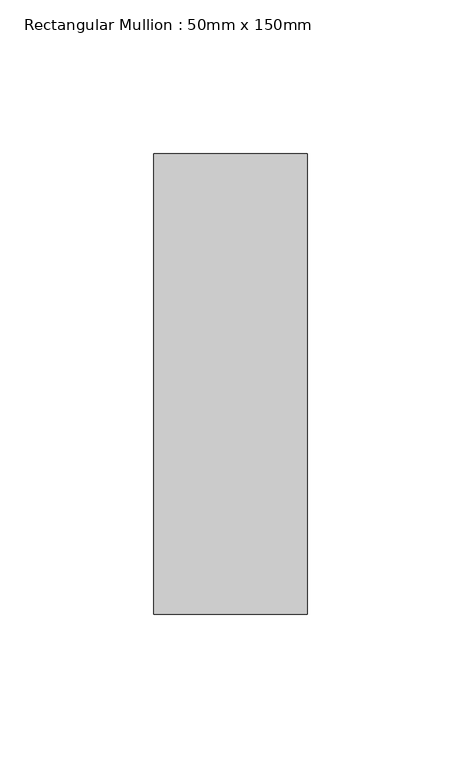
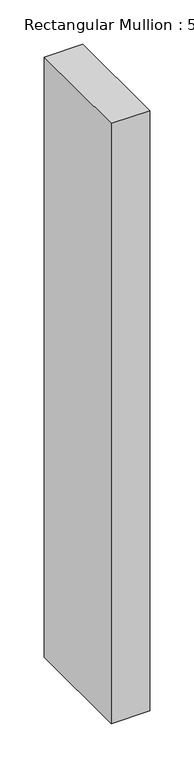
"""IFC4 building model written with IfcOpenShell, lengths in millimetres: member geometry, Rectangular Mullion : 50mm x 150mm."""

import ifcopenshell
import ifcopenshell.guid

model = None  # the IFC model being written
_history = None  # IfcOwnerHistory: only IFC2X3 demands one
_inside = {}  # id of a spatial element -> (the spatial element, [elements in it])
_under = {}  # id of a project, library or spatial element -> (it, [spatial elements below it])
_declared = {}  # id of a project -> (the project, [libraries it declares])
_typed = {}  # id of a type object -> (the type object, [elements of that type])
_made_of = {}  # id of a material, layer set ... -> (it, [elements and type objects made of it])


def new_model(schema):
    """Start an empty IFC model of exactly this schema.

    Asked for "IFC4X3", IfcOpenShell would pick the latest addendum, in which some entities
    have other attributes; the version numbers below select the first issue.
    IFC2X3 requires an IfcOwnerHistory on every rooted entity: one is made here for all.
    """
    global model, _history
    if schema == "IFC4X3":
        model = ifcopenshell.file(schema_version=(4, 3, 0, 0))
    else:
        model = ifcopenshell.file(schema=schema)
    _inside.clear()
    _under.clear()
    _declared.clear()
    _typed.clear()
    _made_of.clear()
    _history = None
    if model.schema == "IFC2X3":
        org = make("IfcOrganization", Name="unknown")
        user = make(
            "IfcPersonAndOrganization",
            ThePerson=make("IfcPerson", FamilyName="unknown"),
            TheOrganization=org,
        )
        app = make(
            "IfcApplication",
            ApplicationDeveloper=org,
            Version="unknown",
            ApplicationFullName="unknown",
            ApplicationIdentifier="unknown",
        )
        _history = make(
            "IfcOwnerHistory",
            OwningUser=user,
            OwningApplication=app,
            ChangeAction="ADDED",
            CreationDate=0,
        )
    return model


def make(cls, **values):
    """One entity of the class cls with the attributes given. An attribute that is None is left unset."""
    return model.create_entity(
        cls, **{name: value for name, value in values.items() if value is not None}
    )


def rooted(cls, **values):
    """An entity with a GlobalId (a new one), such as an element, a storey or a relation."""
    return make(cls, GlobalId=ifcopenshell.guid.new(), OwnerHistory=_history, **values)


def si_unit(unit_type, name, prefix=None):
    """IfcSIUnit, for example si_unit("LENGTHUNIT", "METRE", prefix="MILLI")."""
    return make("IfcSIUnit", UnitType=unit_type, Prefix=prefix, Name=name)


def assignment(units):
    """IfcUnitAssignment: the units of a project."""
    return None if units is None else make("IfcUnitAssignment", Units=units)


def point(xyz):
    """IfcCartesianPoint."""
    return None if xyz is None else make("IfcCartesianPoint", Coordinates=xyz)


def direction(xyz):
    """IfcDirection."""
    return None if xyz is None else make("IfcDirection", DirectionRatios=xyz)


def frame(location, z_axis=None, x_axis=None):
    """IfcAxis2Placement3D, a coordinate frame: its origin and axes. An axis left out is left unset."""
    return make(
        "IfcAxis2Placement3D",
        Location=point(location),
        Axis=direction(z_axis),
        RefDirection=direction(x_axis),
    )


def origin():
    """The frame at (0, 0, 0) with its axes left unset."""
    return frame((0.0, 0.0, 0.0))


def place(relative_to, where):
    """IfcLocalPlacement: puts the frame where relative to a parent placement (None: the world)."""
    return make(
        "IfcLocalPlacement", PlacementRelTo=relative_to, RelativePlacement=where
    )


def context(
    kind, dimensions, precision=None, world=None, true_north=None, identifier=None
):
    """IfcGeometricRepresentationContext, for example the 3D "Model" context."""
    return make(
        "IfcGeometricRepresentationContext",
        ContextIdentifier=identifier,
        ContextType=kind,
        CoordinateSpaceDimension=dimensions,
        Precision=precision,
        WorldCoordinateSystem=world,
        TrueNorth=true_north,
    )


def project(units=None, contexts=None):
    """IfcProject with its units and contexts."""
    return rooted(
        "IfcProject",
        Name="project",
        RepresentationContexts=contexts,
        UnitsInContext=assignment(units),
    )


def spatial(cls, under=None, at=None, **own):
    """A site, building, storey or space (cls), placed at a placement, below another one or the project."""
    s = rooted(cls, ObjectPlacement=at, **own)
    if under is not None:
        _under.setdefault(under.id(), (under, []))[1].append(s)
    return s


def polyline(points):
    """IfcPolyline through the points."""
    return make("IfcPolyline", Points=[point(p) for p in points])


def outline(outer, holes=None, kind="AREA"):
    """IfcArbitraryClosedProfileDef: a profile drawn as a closed curve; with holes, ...WithVoids."""
    if holes is None:
        return make("IfcArbitraryClosedProfileDef", ProfileType=kind, OuterCurve=outer)
    return make(
        "IfcArbitraryProfileDefWithVoids",
        ProfileType=kind,
        OuterCurve=outer,
        InnerCurves=holes,
    )


def extrude(swept, where, along, depth):
    """IfcExtrudedAreaSolid: the profile swept, set in the frame where, extruded along a direction by depth."""
    return make(
        "IfcExtrudedAreaSolid",
        SweptArea=swept,
        Position=where,
        ExtrudedDirection=direction(along),
        Depth=depth,
    )


def shape(context_of_items, identifier, shape_type, items):
    """IfcShapeRepresentation: the items that make up one representation, for example the "Body"."""
    return make(
        "IfcShapeRepresentation",
        ContextOfItems=context_of_items,
        RepresentationIdentifier=identifier,
        RepresentationType=shape_type,
        Items=items,
    )


def source(mapping_origin, context_of_items, identifier, shape_type, items):
    """IfcRepresentationMap: a shape defined once, which mapped items show again and again."""
    return make(
        "IfcRepresentationMap",
        MappingOrigin=mapping_origin,
        MappedRepresentation=shape(context_of_items, identifier, shape_type, items),
    )


def transform(
    local_origin,
    x_axis=None,
    y_axis=None,
    z_axis=None,
    scale=None,
    scale2=None,
    scale3=None,
    uniform=True,
):
    """IfcCartesianTransformationOperator3D, or its non-uniform kind. x_axis, y_axis, z_axis: its Axis1, 2, 3."""
    if uniform:
        return make(
            "IfcCartesianTransformationOperator3D",
            Axis1=direction(x_axis),
            Axis2=direction(y_axis),
            LocalOrigin=point(local_origin),
            Scale=scale,
            Axis3=direction(z_axis),
        )
    return make(
        "IfcCartesianTransformationOperator3DnonUniform",
        Axis1=direction(x_axis),
        Axis2=direction(y_axis),
        LocalOrigin=point(local_origin),
        Scale=scale,
        Axis3=direction(z_axis),
        Scale2=scale2,
        Scale3=scale3,
    )


def mapped(mapping_source, mapping_target):
    """IfcMappedItem: shows the shape of a source again, moved by a transform."""
    return make(
        "IfcMappedItem", MappingSource=mapping_source, MappingTarget=mapping_target
    )


def made_of(thing, what):
    """Note that an element or type object is made of a material, layer set ...; save() writes the relation."""
    if what is not None:
        _made_of.setdefault(what.id(), (what, []))[1].append(thing)
    return thing


def element(
    cls,
    number,
    at=None,
    inside=None,
    cuts=None,
    type_object=None,
    material=None,
    context=None,
    identifier="Body",
    shape_type=None,
    held_by="IfcProductDefinitionShape",
    body=None,
    shapes=None,
    **own,
):
    """One element of the class cls, such as IfcWall. Its Tag is "e" and its number.

    at: its placement. inside: the storey or other place that contains it. cuts: it is an
    opening in that element (IfcRelVoidsElement). A single representation is given by context,
    identifier, shape_type and body (its items); several are given by shapes. held_by: the class
    of the entity that holds the representations. save() writes the other relations.
    """
    e = rooted(cls, Tag="e%d" % number, ObjectPlacement=at, **own)
    if body is not None:
        shapes = [shape(context, identifier, shape_type, body)]
    if shapes is not None:
        e.Representation = make(held_by, Representations=shapes)
    if inside is not None:
        _inside.setdefault(inside.id(), (inside, []))[1].append(e)
    if cuts is not None:
        rooted(
            "IfcRelVoidsElement", RelatingBuildingElement=cuts, RelatedOpeningElement=e
        )
    if type_object is not None:
        _typed.setdefault(type_object.id(), (type_object, []))[1].append(e)
    return made_of(e, material)


def aggregate(whole, parts):
    """IfcRelAggregates: a whole, such as a stair, and the parts it consists of."""
    return rooted("IfcRelAggregates", RelatingObject=whole, RelatedObjects=parts)


def save(model, path):
    """Write the relations noted so far, then the file.

    IfcRelAggregates (storeys below a building ...), IfcRelContainedInSpatialStructure (elements
    in a storey), IfcRelDefinesByType, IfcRelAssociatesMaterial and IfcRelDeclares: one each for
    every whole, place, type object, material and project.
    """
    for whole, parts in _under.values():
        aggregate(whole, parts)
    for where, things in _inside.values():
        rooted(
            "IfcRelContainedInSpatialStructure",
            RelatedElements=things,
            RelatingStructure=where,
        )
    for kind, things in _typed.values():
        rooted("IfcRelDefinesByType", RelatedObjects=things, RelatingType=kind)
    for what, things in _made_of.values():
        rooted("IfcRelAssociatesMaterial", RelatedObjects=things, RelatingMaterial=what)
    for by, libraries in _declared.values():
        rooted("IfcRelDeclares", RelatingContext=by, RelatedDefinitions=libraries)
    model.write(path)


def rectangular_mullion_50mm_x_150mm_2daa7a2f(model_context):
    return source(origin(), model_context, "Body", "SweptSolid", [
        extrude(outline(polyline([(25.0, 75.0), (25.0, -75.0), (-25.0, -75.0), (-25.0, 75.0), (25.0, 75.0)])), frame((0.0, 0.0, -824.5150656), z_axis=(0.0, 0.0, 1.0), x_axis=(1.0, 0.0, 0.0)), (0.0, 0.0, 1.0), 824.5150656),
    ])


if __name__ == "__main__":
    model = new_model("IFC4")
    model_context = context("Model", 3, world=origin())
    ifc_project = project(units=[si_unit("LENGTHUNIT", "METRE", prefix="MILLI")], contexts=[model_context])
    site = spatial("IfcSite", under=ifc_project)
    building = spatial("IfcBuilding", under=site)
    placement = place(None, origin())
    rectangular_mullion_50mm_x_150mm_shape = rectangular_mullion_50mm_x_150mm_2daa7a2f(model_context)
    element("IfcMember", 1, ObjectType="Rectangular Mullion : 50mm x 150mm", at=placement, inside=building, context=model_context, shape_type="MappedRepresentation", body=[
        mapped(rectangular_mullion_50mm_x_150mm_shape, transform((0.0, 0.0, 0.0), x_axis=(1.0, 0.0, 0.0), y_axis=(0.0, 1.0, 0.0), z_axis=(0.0, 0.0, 1.0))),
    ])
    save(model, "model.ifc")
